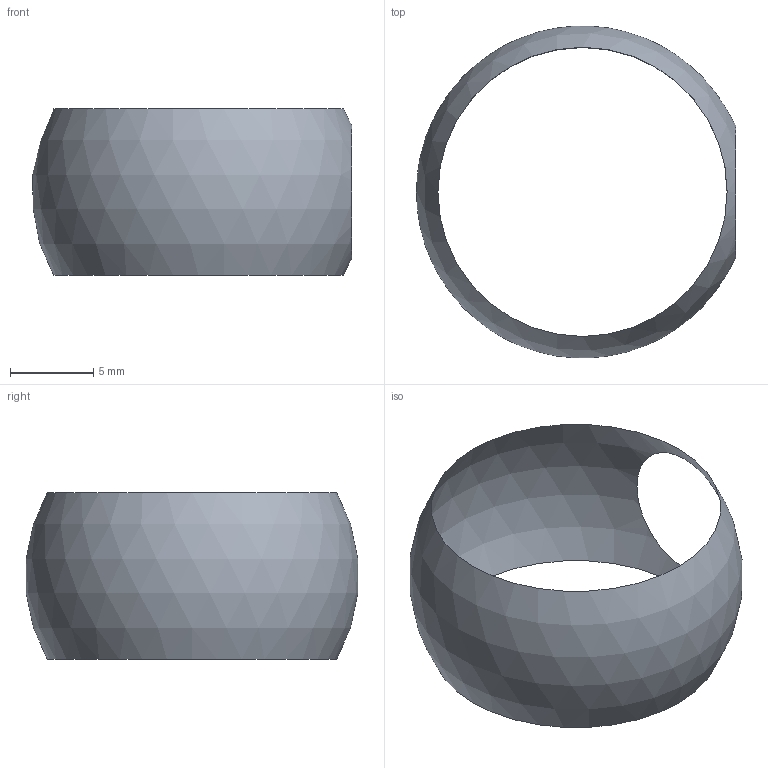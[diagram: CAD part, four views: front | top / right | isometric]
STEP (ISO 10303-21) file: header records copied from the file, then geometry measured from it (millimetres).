
FILE_DESCRIPTION(('BRL-CAD AP214 periodic band-with-hole regression fixture'),'2;1');
FILE_NAME('ap214_periodic_band_with_hole.stp','2026-07-23T00:00:00',('BRL-CAD'),('BRL-CAD'),'','','');
FILE_SCHEMA(('AUTOMOTIVE_DESIGN { 1 0 10303 214 3 1 1 1 }'));
Length unit declared in the file: millimetre
Products named in the file (1): periodic_band_with_hole
Bounding box: 19.11 x 19.86 x 10 mm (x, y, z)
Surface area: 575.9 mm2 (no closed solid volume)
Topology: 0 solids, 1 shells, 1 faces, 7 edges, 5 vertices
Faces by surface type: sphere 1
Entity records: 47 total; most frequent: CARTESIAN_POINT 7, AXIS2_PLACEMENT_3D 4, DIRECTION 3, VERTEX_POINT 3, CIRCLE 3, EDGE_CURVE 3, ORIENTED_EDGE 3, EDGE_LOOP 3
